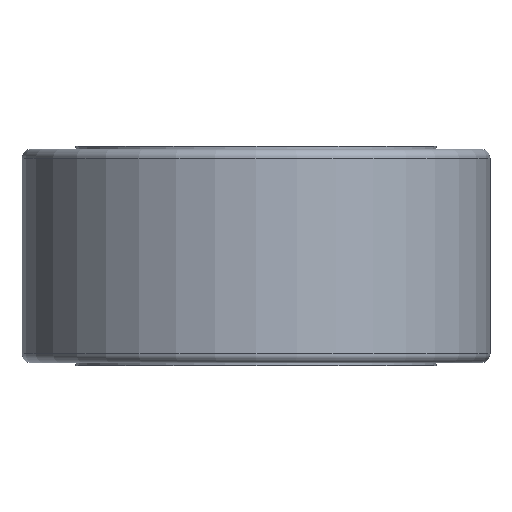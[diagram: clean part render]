
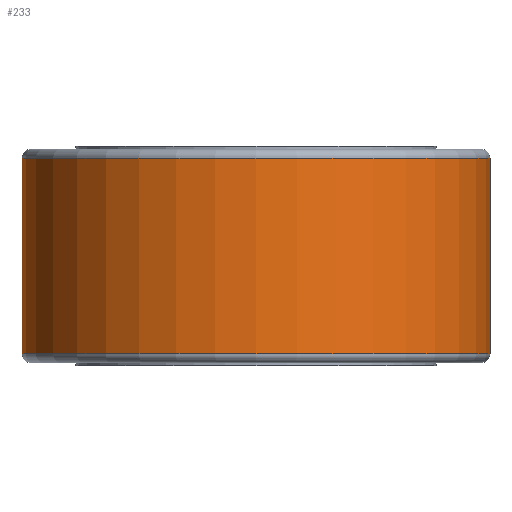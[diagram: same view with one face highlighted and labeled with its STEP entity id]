
A CAD part, front view. The second image highlights one B-rep face of the part: STEP entity #233.
In plain terms, the highlighted cylindrical face has radius 80 mm (diameter 160 mm), a partial arc.
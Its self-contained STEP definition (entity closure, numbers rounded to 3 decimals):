
#13 = DIRECTION ( 'NONE',  ( 1., 0., 0. ) ) ;
#19 = CARTESIAN_POINT ( 'NONE',  ( 0., 0., 73. ) ) ;
#35 = CIRCLE ( 'NONE', #294, 80. ) ;
#38 = ORIENTED_EDGE ( 'NONE', *, *, #173, .T. ) ;
#60 = DIRECTION ( 'NONE',  ( 1., 0., 0. ) ) ;
#85 = CARTESIAN_POINT ( 'NONE',  ( -80., 0., 73. ) ) ;
#135 = DIRECTION ( 'NONE',  ( 0., 0., -1. ) ) ;
#150 = VECTOR ( 'NONE', #135, 1000. ) ;
#158 = DIRECTION ( 'NONE',  ( 0., 0., -1. ) ) ;
#173 = EDGE_CURVE ( 'NONE', #436, #556, #552, .T. ) ;
#175 = CARTESIAN_POINT ( 'NONE',  ( 80., 0., 73. ) ) ;
#186 = DIRECTION ( 'NONE',  ( 0., 0., 1. ) ) ;
#198 = ORIENTED_EDGE ( 'NONE', *, *, #475, .T. ) ;
#200 = CARTESIAN_POINT ( 'NONE',  ( -80., 0., 70. ) ) ;
#212 = AXIS2_PLACEMENT_3D ( 'NONE', #568, #186, #60 ) ;
#228 = ORIENTED_EDGE ( 'NONE', *, *, #424, .F. ) ;
#233 = ADVANCED_FACE ( 'NONE', ( #331 ), #250, .T. ) ;
#250 = CYLINDRICAL_SURFACE ( 'NONE', #447, 80. ) ;
#278 = VERTEX_POINT ( 'NONE', #200 ) ;
#284 = LINE ( 'NONE', #175, #150 ) ;
#294 = AXIS2_PLACEMENT_3D ( 'NONE', #377, #158, #13 ) ;
#295 = DIRECTION ( 'NONE',  ( -1., 0., 0. ) ) ;
#302 = EDGE_LOOP ( 'NONE', ( #228, #489, #198, #38 ) ) ;
#304 = VERTEX_POINT ( 'NONE', #417 ) ;
#312 = DIRECTION ( 'NONE',  ( 0., 0., -1. ) ) ;
#331 = FACE_OUTER_BOUND ( 'NONE', #302, .T. ) ;
#377 = CARTESIAN_POINT ( 'NONE',  ( 0., 0., 70. ) ) ;
#386 = LINE ( 'NONE', #85, #505 ) ;
#407 = CARTESIAN_POINT ( 'NONE',  ( -80., 0., 3. ) ) ;
#417 = CARTESIAN_POINT ( 'NONE',  ( 80., 0., 70. ) ) ;
#424 = EDGE_CURVE ( 'NONE', #304, #556, #284, .T. ) ;
#436 = VERTEX_POINT ( 'NONE', #407 ) ;
#440 = CARTESIAN_POINT ( 'NONE',  ( 80., 0., 3. ) ) ;
#447 = AXIS2_PLACEMENT_3D ( 'NONE', #19, #577, #295 ) ;
#475 = EDGE_CURVE ( 'NONE', #278, #436, #386, .T. ) ;
#489 = ORIENTED_EDGE ( 'NONE', *, *, #547, .T. ) ;
#505 = VECTOR ( 'NONE', #312, 1000. ) ;
#547 = EDGE_CURVE ( 'NONE', #304, #278, #35, .T. ) ;
#552 = CIRCLE ( 'NONE', #212, 80. ) ;
#556 = VERTEX_POINT ( 'NONE', #440 ) ;
#568 = CARTESIAN_POINT ( 'NONE',  ( 0., 0., 3. ) ) ;
#577 = DIRECTION ( 'NONE',  ( 0., 0., -1. ) ) ;
